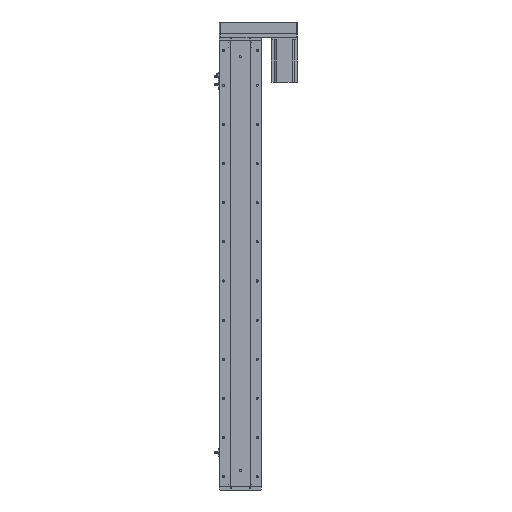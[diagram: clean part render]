
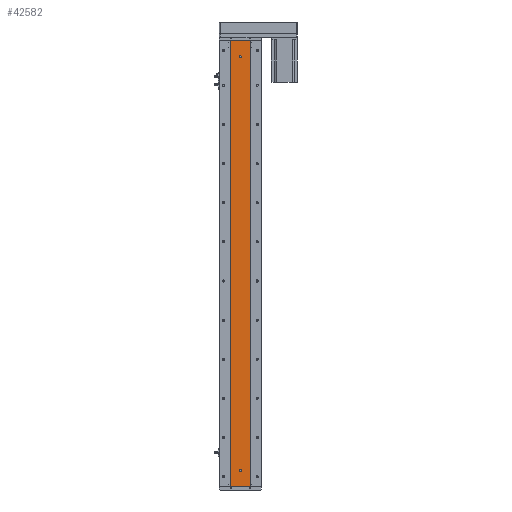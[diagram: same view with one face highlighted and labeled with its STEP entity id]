
A CAD part, left-side view. The second image highlights one B-rep face of the part: STEP entity #42582.
In plain terms, the highlighted planar face has unit normal (-1, 0, 0).
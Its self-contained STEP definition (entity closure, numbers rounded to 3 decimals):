
#340 = VERTEX_POINT ( 'NONE', #44315 ) ;
#1712 = DIRECTION ( 'NONE',  ( 0., -1., 0. ) ) ;
#2994 = EDGE_CURVE ( 'NONE', #18856, #340, #20695, .T. ) ;
#3495 = FACE_BOUND ( 'NONE', #28819, .T. ) ;
#3790 = ORIENTED_EDGE ( 'NONE', *, *, #7409, .F. ) ;
#4580 = VERTEX_POINT ( 'NONE', #39045 ) ;
#4928 = CARTESIAN_POINT ( 'NONE',  ( -24.994, -29.785, 1369. ) ) ;
#6001 = DIRECTION ( 'NONE',  ( 1., 0., 0. ) ) ;
#6306 = VERTEX_POINT ( 'NONE', #6524 ) ;
#6524 = CARTESIAN_POINT ( 'NONE',  ( -24.994, 0., 1322. ) ) ;
#7409 = EDGE_CURVE ( 'NONE', #6306, #4580, #22679, .T. ) ;
#8026 = DIRECTION ( 'NONE',  ( -1., 0., 0. ) ) ;
#8785 = VECTOR ( 'NONE', #1712, 1000. ) ;
#8793 = VECTOR ( 'NONE', #8923, 1000. ) ;
#8923 = DIRECTION ( 'NONE',  ( 0., 0., -1. ) ) ;
#9092 = DIRECTION ( 'NONE',  ( 0., -1., 0. ) ) ;
#9594 = CARTESIAN_POINT ( 'NONE',  ( -24.994, 0., 50. ) ) ;
#10135 = ORIENTED_EDGE ( 'NONE', *, *, #51740, .F. ) ;
#11377 = EDGE_CURVE ( 'NONE', #4580, #6306, #44963, .T. ) ;
#13089 = VERTEX_POINT ( 'NONE', #15701 ) ;
#13596 = DIRECTION ( 'NONE',  ( 0., 0., 1. ) ) ;
#14238 = AXIS2_PLACEMENT_3D ( 'NONE', #18827, #46735, #22834 ) ;
#14516 = EDGE_CURVE ( 'NONE', #31067, #32816, #25123, .T. ) ;
#15701 = CARTESIAN_POINT ( 'NONE',  ( -24.994, -29.785, 1369. ) ) ;
#15990 = CARTESIAN_POINT ( 'NONE',  ( -24.994, 29.785, 1369. ) ) ;
#16560 = ORIENTED_EDGE ( 'NONE', *, *, #35737, .F. ) ;
#17528 = CARTESIAN_POINT ( 'NONE',  ( -24.994, 29.785, 1369. ) ) ;
#18592 = CARTESIAN_POINT ( 'NONE',  ( -24.994, 0., 1319. ) ) ;
#18827 = CARTESIAN_POINT ( 'NONE',  ( -24.994, 0., 1319. ) ) ;
#18856 = VERTEX_POINT ( 'NONE', #48941 ) ;
#19376 = LINE ( 'NONE', #17528, #8785 ) ;
#19445 = VECTOR ( 'NONE', #9092, 1000. ) ;
#20279 = EDGE_LOOP ( 'NONE', ( #24886, #16560 ) ) ;
#20695 = LINE ( 'NONE', #29132, #19445 ) ;
#21293 = CARTESIAN_POINT ( 'NONE',  ( -24.994, 29.785, 1369. ) ) ;
#22581 = DIRECTION ( 'NONE',  ( 0., 0., 1. ) ) ;
#22679 = CIRCLE ( 'NONE', #49776, 3. ) ;
#22834 = DIRECTION ( 'NONE',  ( 0., 0., 1. ) ) ;
#23714 = CIRCLE ( 'NONE', #35987, 3. ) ;
#24707 = FACE_OUTER_BOUND ( 'NONE', #50459, .T. ) ;
#24886 = ORIENTED_EDGE ( 'NONE', *, *, #14516, .F. ) ;
#25123 = CIRCLE ( 'NONE', #48170, 3. ) ;
#28819 = EDGE_LOOP ( 'NONE', ( #3790, #45608 ) ) ;
#29132 = CARTESIAN_POINT ( 'NONE',  ( -24.994, 29.785, 0. ) ) ;
#29478 = VERTEX_POINT ( 'NONE', #15990 ) ;
#29688 = PLANE ( 'NONE',  #42046 ) ;
#29867 = CARTESIAN_POINT ( 'NONE',  ( -24.994, 29.785, 1369. ) ) ;
#31067 = VERTEX_POINT ( 'NONE', #45979 ) ;
#31913 = CARTESIAN_POINT ( 'NONE',  ( -24.994, 0., 50. ) ) ;
#32816 = VERTEX_POINT ( 'NONE', #36011 ) ;
#33502 = DIRECTION ( 'NONE',  ( 0., 0., -1. ) ) ;
#33875 = DIRECTION ( 'NONE',  ( 0., 0., -1. ) ) ;
#34040 = FACE_BOUND ( 'NONE', #20279, .T. ) ;
#35678 = EDGE_CURVE ( 'NONE', #13089, #340, #40601, .T. ) ;
#35737 = EDGE_CURVE ( 'NONE', #32816, #31067, #23714, .T. ) ;
#35903 = DIRECTION ( 'NONE',  ( 0., 0., 1. ) ) ;
#35987 = AXIS2_PLACEMENT_3D ( 'NONE', #9594, #37506, #13596 ) ;
#36011 = CARTESIAN_POINT ( 'NONE',  ( -24.994, 0., 47. ) ) ;
#36047 = EDGE_CURVE ( 'NONE', #29478, #18856, #48999, .T. ) ;
#37506 = DIRECTION ( 'NONE',  ( -1., 0., 0. ) ) ;
#37730 = ORIENTED_EDGE ( 'NONE', *, *, #36047, .T. ) ;
#38350 = VECTOR ( 'NONE', #33502, 1000. ) ;
#39045 = CARTESIAN_POINT ( 'NONE',  ( -24.994, 0., 1316. ) ) ;
#39467 = ORIENTED_EDGE ( 'NONE', *, *, #35678, .F. ) ;
#40601 = LINE ( 'NONE', #4928, #8793 ) ;
#42046 = AXIS2_PLACEMENT_3D ( 'NONE', #29867, #6001, #33875 ) ;
#42582 = ADVANCED_FACE ( 'NONE', ( #3495, #34040, #24707 ), #29688, .F. ) ;
#44315 = CARTESIAN_POINT ( 'NONE',  ( -24.994, -29.785, 0. ) ) ;
#44963 = CIRCLE ( 'NONE', #14238, 3. ) ;
#45608 = ORIENTED_EDGE ( 'NONE', *, *, #11377, .F. ) ;
#45979 = CARTESIAN_POINT ( 'NONE',  ( -24.994, 0., 53. ) ) ;
#46491 = DIRECTION ( 'NONE',  ( -1., 0., 0. ) ) ;
#46735 = DIRECTION ( 'NONE',  ( -1., 0., 0. ) ) ;
#47196 = ORIENTED_EDGE ( 'NONE', *, *, #2994, .T. ) ;
#48170 = AXIS2_PLACEMENT_3D ( 'NONE', #31913, #8026, #35903 ) ;
#48941 = CARTESIAN_POINT ( 'NONE',  ( -24.994, 29.785, 0. ) ) ;
#48999 = LINE ( 'NONE', #21293, #38350 ) ;
#49776 = AXIS2_PLACEMENT_3D ( 'NONE', #18592, #46491, #22581 ) ;
#50459 = EDGE_LOOP ( 'NONE', ( #47196, #39467, #10135, #37730 ) ) ;
#51740 = EDGE_CURVE ( 'NONE', #29478, #13089, #19376, .T. ) ;
